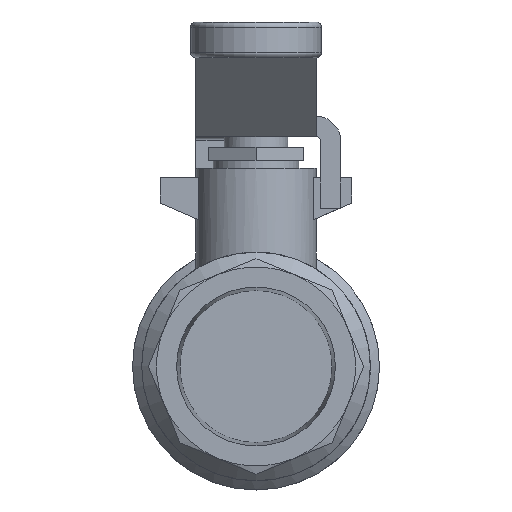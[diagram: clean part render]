
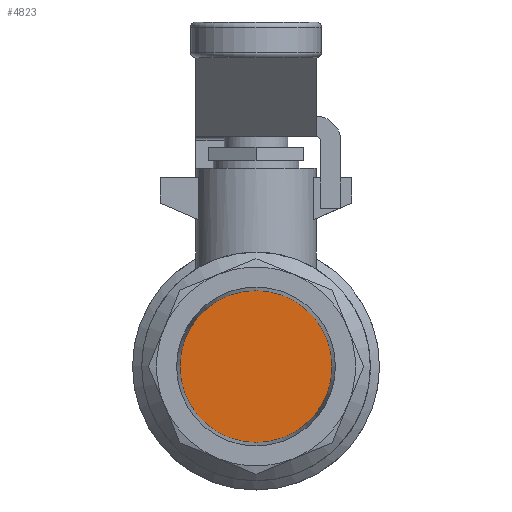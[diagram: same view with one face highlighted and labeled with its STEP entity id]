
A CAD part, left-side view. The second image highlights one B-rep face of the part: STEP entity #4823.
In plain terms, the highlighted free-form (B-spline) face has degree [1, 1] with [2, 2] control points.
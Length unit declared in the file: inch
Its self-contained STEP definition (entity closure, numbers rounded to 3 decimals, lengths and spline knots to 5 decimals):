
#4807=CARTESIAN_POINT('',(3.99573,-6.06439,1.61343));
#4808=CARTESIAN_POINT('',(3.99573,-6.80943,1.61343));
#4809=CARTESIAN_POINT('',(3.99573,-6.06439,0.86839));
#4810=CARTESIAN_POINT('',(3.99573,-6.80943,0.86839));
#4811=B_SPLINE_SURFACE_WITH_KNOTS('',1,1,((#4807,#4809),(#4808,#4810)),.UNSPECIFIED.,.F.,.F.,.U.,(2,2),(2,2),(0.0,0.74504),(0.0,0.74504),.UNSPECIFIED.);
#4812=CARTESIAN_POINT('',(3.99573,-6.06439,1.24091));
#4813=VERTEX_POINT('',#4812);
#4814=CARTESIAN_POINT('',(3.99573,-6.43691,1.24091));
#4815=DIRECTION('',(1.0,0.0,0.0));
#4816=DIRECTION('',(0.0,1.0,0.0));
#4817=AXIS2_PLACEMENT_3D('',#4814,#4815,#4816);
#4818=CIRCLE('',#4817,0.37252);
#4819=EDGE_CURVE('',#4813,#4813,#4818,.T.);
#4820=ORIENTED_EDGE('',*,*,#4819,.F.);
#4821=EDGE_LOOP('',(#4820));
#4822=FACE_OUTER_BOUND('',#4821,.T.);
#4823=ADVANCED_FACE('',(#4822),#4811,.F.);
